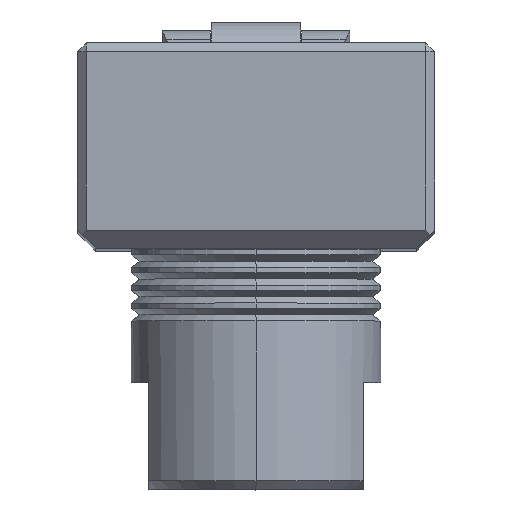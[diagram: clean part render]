
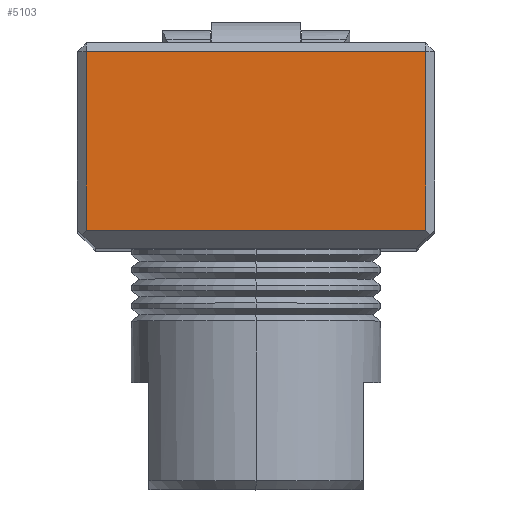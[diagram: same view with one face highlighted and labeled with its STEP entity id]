
A CAD part, top view. The second image highlights one B-rep face of the part: STEP entity #5103.
In plain terms, the highlighted planar face has unit normal (0, 0, 1).
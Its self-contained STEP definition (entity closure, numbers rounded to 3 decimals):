
#2079 = CARTESIAN_POINT ( 'NONE',  ( 9.5, 1., 50. ) ) ;
#2080 = DIRECTION ( 'NONE',  ( 1., 0., 0. ) ) ;
#2081 = VECTOR ( 'NONE', #2080, 1000. ) ;
#2082 = CARTESIAN_POINT ( 'NONE',  ( 9.5, 1., 50. ) ) ;
#2083 = LINE ( 'NONE', #2082, #2081 ) ;
#2084 = CARTESIAN_POINT ( 'NONE',  ( -9.5, 1., 50. ) ) ;
#2085 = CARTESIAN_POINT ( 'NONE',  ( -9.5, 11., 50. ) ) ;
#2086 = DIRECTION ( 'NONE',  ( 0., -1., 0. ) ) ;
#2087 = VECTOR ( 'NONE', #2086, 1000. ) ;
#2088 = CARTESIAN_POINT ( 'NONE',  ( -9.5, 0., 50. ) ) ;
#2089 = LINE ( 'NONE', #2088, #2087 ) ;
#2090 = DIRECTION ( 'NONE',  ( -1., 0., 0. ) ) ;
#2091 = DIRECTION ( 'NONE',  ( 0., 0., -1. ) ) ;
#2092 = CARTESIAN_POINT ( 'NONE',  ( 10., 11.5, 50. ) ) ;
#2093 = AXIS2_PLACEMENT_3D ( 'NONE', #2092, #2091, #2090 ) ;
#2094 = PLANE ( 'NONE',  #2093 ) ;
#2095 = FACE_OUTER_BOUND ( 'NONE', #5104, .T. ) ;
#2134 = DIRECTION ( 'NONE',  ( -1., 0., 0. ) ) ;
#2135 = VECTOR ( 'NONE', #2134, 1000. ) ;
#2136 = CARTESIAN_POINT ( 'NONE',  ( -10., 11., 50. ) ) ;
#2137 = LINE ( 'NONE', #2136, #2135 ) ;
#2138 = CARTESIAN_POINT ( 'NONE',  ( 9.5, 11., 50. ) ) ;
#2139 = DIRECTION ( 'NONE',  ( 0., 1., 0. ) ) ;
#2140 = VECTOR ( 'NONE', #2139, 1000. ) ;
#2141 = CARTESIAN_POINT ( 'NONE',  ( 9.5, 11.5, 50. ) ) ;
#2142 = LINE ( 'NONE', #2141, #2140 ) ;
#5103 = ADVANCED_FACE ( 'NONE', ( #2095 ), #2094, .F. ) ;
#5104 = EDGE_LOOP ( 'NONE', ( #5105, #5109, #5112, #5115 ) ) ;
#5105 = ORIENTED_EDGE ( 'NONE', *, *, #5106, .T. ) ;
#5106 = EDGE_CURVE ( 'NONE', #5107, #5108, #2089, .T. ) ;
#5107 = VERTEX_POINT ( 'NONE', #2085 ) ;
#5108 = VERTEX_POINT ( 'NONE', #2084 ) ;
#5109 = ORIENTED_EDGE ( 'NONE', *, *, #5110, .T. ) ;
#5110 = EDGE_CURVE ( 'NONE', #5108, #5111, #2083, .T. ) ;
#5111 = VERTEX_POINT ( 'NONE', #2079 ) ;
#5112 = ORIENTED_EDGE ( 'NONE', *, *, #5113, .T. ) ;
#5113 = EDGE_CURVE ( 'NONE', #5111, #5114, #2142, .T. ) ;
#5114 = VERTEX_POINT ( 'NONE', #2138 ) ;
#5115 = ORIENTED_EDGE ( 'NONE', *, *, #5116, .T. ) ;
#5116 = EDGE_CURVE ( 'NONE', #5114, #5107, #2137, .T. ) ;
